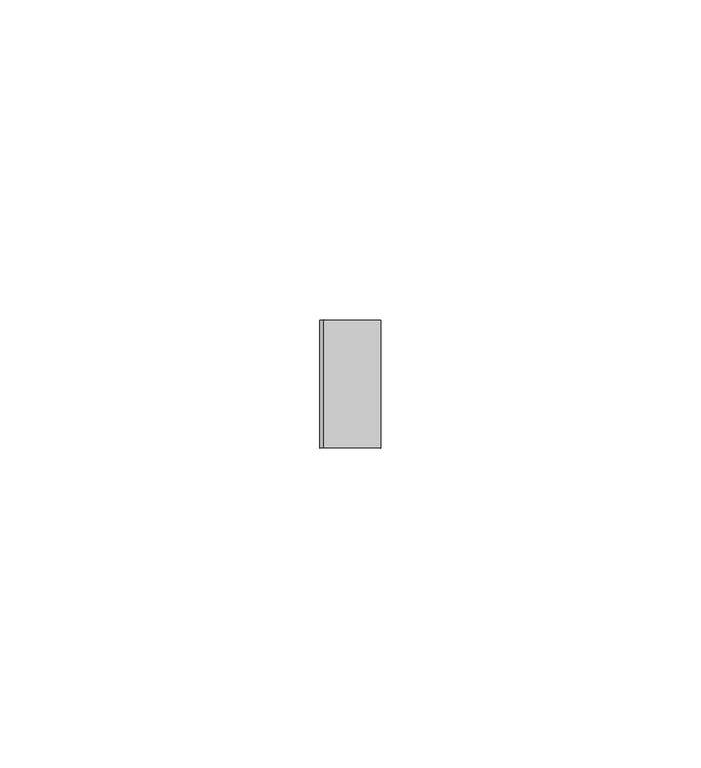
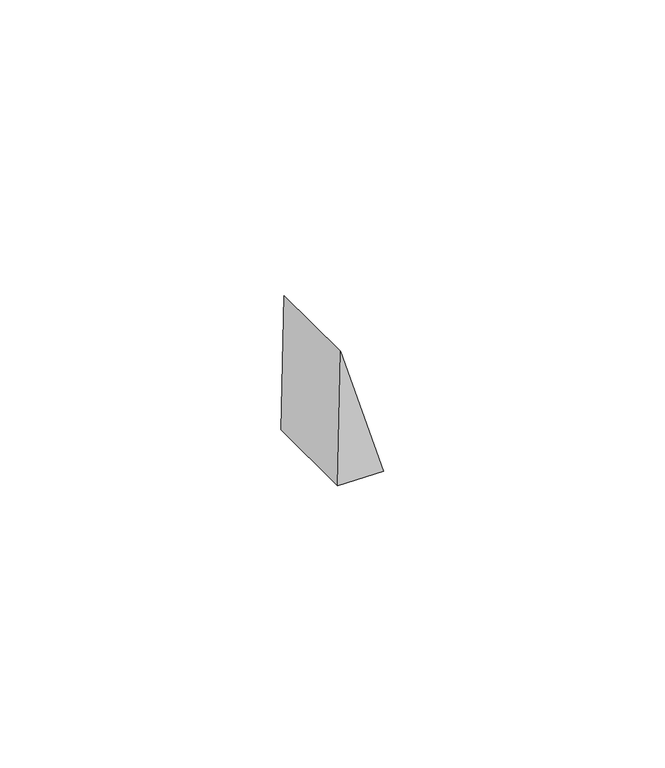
"""IFC4 building model written with IfcOpenShell, lengths in millimetres: plate geometry, 空系统嵌板 : 空."""

import ifcopenshell
import ifcopenshell.guid

model = None  # the IFC model being written
_history = None  # IfcOwnerHistory: only IFC2X3 demands one
_inside = {}  # id of a spatial element -> (the spatial element, [elements in it])
_under = {}  # id of a project, library or spatial element -> (it, [spatial elements below it])
_declared = {}  # id of a project -> (the project, [libraries it declares])
_typed = {}  # id of a type object -> (the type object, [elements of that type])
_made_of = {}  # id of a material, layer set ... -> (it, [elements and type objects made of it])


def new_model(schema):
    """Start an empty IFC model of exactly this schema.

    Asked for "IFC4X3", IfcOpenShell would pick the latest addendum, in which some entities
    have other attributes; the version numbers below select the first issue.
    IFC2X3 requires an IfcOwnerHistory on every rooted entity: one is made here for all.
    """
    global model, _history
    if schema == "IFC4X3":
        model = ifcopenshell.file(schema_version=(4, 3, 0, 0))
    else:
        model = ifcopenshell.file(schema=schema)
    _inside.clear()
    _under.clear()
    _declared.clear()
    _typed.clear()
    _made_of.clear()
    _history = None
    if model.schema == "IFC2X3":
        org = make("IfcOrganization", Name="unknown")
        user = make(
            "IfcPersonAndOrganization",
            ThePerson=make("IfcPerson", FamilyName="unknown"),
            TheOrganization=org,
        )
        app = make(
            "IfcApplication",
            ApplicationDeveloper=org,
            Version="unknown",
            ApplicationFullName="unknown",
            ApplicationIdentifier="unknown",
        )
        _history = make(
            "IfcOwnerHistory",
            OwningUser=user,
            OwningApplication=app,
            ChangeAction="ADDED",
            CreationDate=0,
        )
    return model


def make(cls, **values):
    """One entity of the class cls with the attributes given. An attribute that is None is left unset."""
    return model.create_entity(
        cls, **{name: value for name, value in values.items() if value is not None}
    )


def rooted(cls, **values):
    """An entity with a GlobalId (a new one), such as an element, a storey or a relation."""
    return make(cls, GlobalId=ifcopenshell.guid.new(), OwnerHistory=_history, **values)


def si_unit(unit_type, name, prefix=None):
    """IfcSIUnit, for example si_unit("LENGTHUNIT", "METRE", prefix="MILLI")."""
    return make("IfcSIUnit", UnitType=unit_type, Prefix=prefix, Name=name)


def assignment(units):
    """IfcUnitAssignment: the units of a project."""
    return None if units is None else make("IfcUnitAssignment", Units=units)


def point(xyz):
    """IfcCartesianPoint."""
    return None if xyz is None else make("IfcCartesianPoint", Coordinates=xyz)


def direction(xyz):
    """IfcDirection."""
    return None if xyz is None else make("IfcDirection", DirectionRatios=xyz)


def frame(location, z_axis=None, x_axis=None):
    """IfcAxis2Placement3D, a coordinate frame: its origin and axes. An axis left out is left unset."""
    return make(
        "IfcAxis2Placement3D",
        Location=point(location),
        Axis=direction(z_axis),
        RefDirection=direction(x_axis),
    )


def origin():
    """The frame at (0, 0, 0) with its axes left unset."""
    return frame((0.0, 0.0, 0.0))


def place(relative_to, where):
    """IfcLocalPlacement: puts the frame where relative to a parent placement (None: the world)."""
    return make(
        "IfcLocalPlacement", PlacementRelTo=relative_to, RelativePlacement=where
    )


def context(
    kind, dimensions, precision=None, world=None, true_north=None, identifier=None
):
    """IfcGeometricRepresentationContext, for example the 3D "Model" context."""
    return make(
        "IfcGeometricRepresentationContext",
        ContextIdentifier=identifier,
        ContextType=kind,
        CoordinateSpaceDimension=dimensions,
        Precision=precision,
        WorldCoordinateSystem=world,
        TrueNorth=true_north,
    )


def project(units=None, contexts=None):
    """IfcProject with its units and contexts."""
    return rooted(
        "IfcProject",
        Name="project",
        RepresentationContexts=contexts,
        UnitsInContext=assignment(units),
    )


def spatial(cls, under=None, at=None, **own):
    """A site, building, storey or space (cls), placed at a placement, below another one or the project."""
    s = rooted(cls, ObjectPlacement=at, **own)
    if under is not None:
        _under.setdefault(under.id(), (under, []))[1].append(s)
    return s


def polyline(points):
    """IfcPolyline through the points."""
    return make("IfcPolyline", Points=[point(p) for p in points])


def outline(outer, holes=None, kind="AREA"):
    """IfcArbitraryClosedProfileDef: a profile drawn as a closed curve; with holes, ...WithVoids."""
    if holes is None:
        return make("IfcArbitraryClosedProfileDef", ProfileType=kind, OuterCurve=outer)
    return make(
        "IfcArbitraryProfileDefWithVoids",
        ProfileType=kind,
        OuterCurve=outer,
        InnerCurves=holes,
    )


def extrude(swept, where, along, depth):
    """IfcExtrudedAreaSolid: the profile swept, set in the frame where, extruded along a direction by depth."""
    return make(
        "IfcExtrudedAreaSolid",
        SweptArea=swept,
        Position=where,
        ExtrudedDirection=direction(along),
        Depth=depth,
    )


def shape(context_of_items, identifier, shape_type, items):
    """IfcShapeRepresentation: the items that make up one representation, for example the "Body"."""
    return make(
        "IfcShapeRepresentation",
        ContextOfItems=context_of_items,
        RepresentationIdentifier=identifier,
        RepresentationType=shape_type,
        Items=items,
    )


def source(mapping_origin, context_of_items, identifier, shape_type, items):
    """IfcRepresentationMap: a shape defined once, which mapped items show again and again."""
    return make(
        "IfcRepresentationMap",
        MappingOrigin=mapping_origin,
        MappedRepresentation=shape(context_of_items, identifier, shape_type, items),
    )


def transform(
    local_origin,
    x_axis=None,
    y_axis=None,
    z_axis=None,
    scale=None,
    scale2=None,
    scale3=None,
    uniform=True,
):
    """IfcCartesianTransformationOperator3D, or its non-uniform kind. x_axis, y_axis, z_axis: its Axis1, 2, 3."""
    if uniform:
        return make(
            "IfcCartesianTransformationOperator3D",
            Axis1=direction(x_axis),
            Axis2=direction(y_axis),
            LocalOrigin=point(local_origin),
            Scale=scale,
            Axis3=direction(z_axis),
        )
    return make(
        "IfcCartesianTransformationOperator3DnonUniform",
        Axis1=direction(x_axis),
        Axis2=direction(y_axis),
        LocalOrigin=point(local_origin),
        Scale=scale,
        Axis3=direction(z_axis),
        Scale2=scale2,
        Scale3=scale3,
    )


def mapped(mapping_source, mapping_target):
    """IfcMappedItem: shows the shape of a source again, moved by a transform."""
    return make(
        "IfcMappedItem", MappingSource=mapping_source, MappingTarget=mapping_target
    )


def made_of(thing, what):
    """Note that an element or type object is made of a material, layer set ...; save() writes the relation."""
    if what is not None:
        _made_of.setdefault(what.id(), (what, []))[1].append(thing)
    return thing


def element(
    cls,
    number,
    at=None,
    inside=None,
    cuts=None,
    type_object=None,
    material=None,
    context=None,
    identifier="Body",
    shape_type=None,
    held_by="IfcProductDefinitionShape",
    body=None,
    shapes=None,
    **own,
):
    """One element of the class cls, such as IfcWall. Its Tag is "e" and its number.

    at: its placement. inside: the storey or other place that contains it. cuts: it is an
    opening in that element (IfcRelVoidsElement). A single representation is given by context,
    identifier, shape_type and body (its items); several are given by shapes. held_by: the class
    of the entity that holds the representations. save() writes the other relations.
    """
    e = rooted(cls, Tag="e%d" % number, ObjectPlacement=at, **own)
    if body is not None:
        shapes = [shape(context, identifier, shape_type, body)]
    if shapes is not None:
        e.Representation = make(held_by, Representations=shapes)
    if inside is not None:
        _inside.setdefault(inside.id(), (inside, []))[1].append(e)
    if cuts is not None:
        rooted(
            "IfcRelVoidsElement", RelatingBuildingElement=cuts, RelatedOpeningElement=e
        )
    if type_object is not None:
        _typed.setdefault(type_object.id(), (type_object, []))[1].append(e)
    return made_of(e, material)


def aggregate(whole, parts):
    """IfcRelAggregates: a whole, such as a stair, and the parts it consists of."""
    return rooted("IfcRelAggregates", RelatingObject=whole, RelatedObjects=parts)


def save(model, path):
    """Write the relations noted so far, then the file.

    IfcRelAggregates (storeys below a building ...), IfcRelContainedInSpatialStructure (elements
    in a storey), IfcRelDefinesByType, IfcRelAssociatesMaterial and IfcRelDeclares: one each for
    every whole, place, type object, material and project.
    """
    for whole, parts in _under.values():
        aggregate(whole, parts)
    for where, things in _inside.values():
        rooted(
            "IfcRelContainedInSpatialStructure",
            RelatedElements=things,
            RelatingStructure=where,
        )
    for kind, things in _typed.values():
        rooted("IfcRelDefinesByType", RelatedObjects=things, RelatingType=kind)
    for what, things in _made_of.values():
        rooted("IfcRelAssociatesMaterial", RelatedObjects=things, RelatingMaterial=what)
    for by, libraries in _declared.values():
        rooted("IfcRelDeclares", RelatingContext=by, RelatedDefinitions=libraries)
    model.write(path)


def plate_0b5f84b8(model_context):
    return source(origin(), model_context, "Body", "SweptSolid", [
        extrude(outline(polyline([(0.2077803, -4.7345456), (0.0, 4.7345456), (29.1234017, -4.1159456), (0.2077803, -4.7345456)])), frame((0.0, -10.0, 0.0), z_axis=(0.0, 1.0, 0.0), x_axis=(0.0, 0.0, 1.0)), (0.0, 0.0, 1.0), 20.0),
    ])


if __name__ == "__main__":
    model = new_model("IFC4")
    model_context = context("Model", 3, world=origin())
    ifc_project = project(units=[si_unit("LENGTHUNIT", "METRE", prefix="MILLI")], contexts=[model_context])
    site = spatial("IfcSite", under=ifc_project)
    building = spatial("IfcBuilding", under=site)
    placement = place(None, origin())
    plate_shape = plate_0b5f84b8(model_context)
    element("IfcPlate", 1, ObjectType="空系统嵌板 : 空", at=placement, inside=building, context=model_context, shape_type="MappedRepresentation", body=[
        mapped(plate_shape, transform((0.0, 0.0, 0.0), x_axis=(1.0, 0.0, 0.0), y_axis=(0.0, 1.0, 0.0), z_axis=(0.0, 0.0, 1.0))),
    ])
    save(model, "model.ifc")
